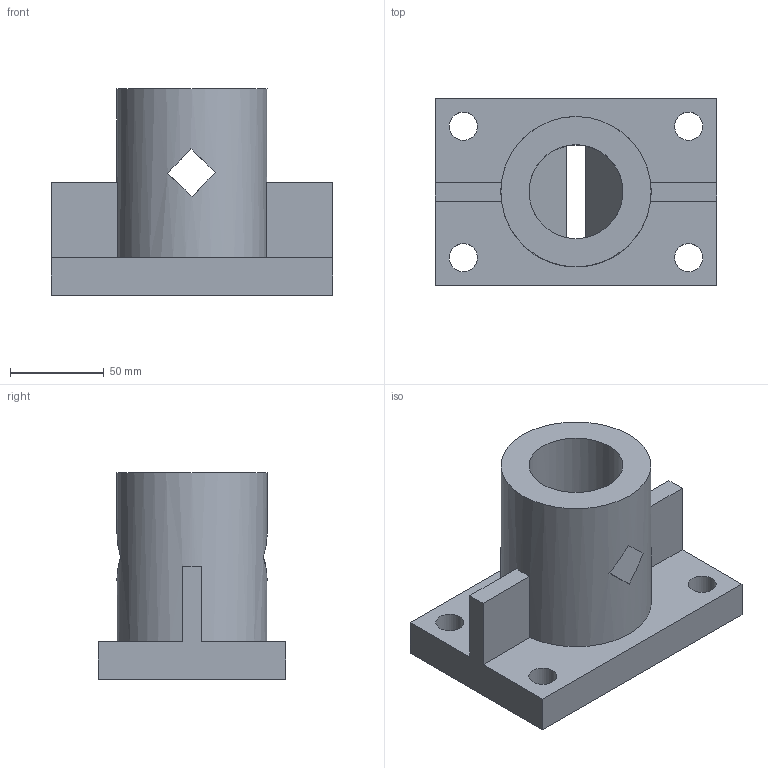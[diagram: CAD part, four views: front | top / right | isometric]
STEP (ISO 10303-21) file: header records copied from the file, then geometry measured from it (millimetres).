
FILE_DESCRIPTION(('TFLEX Exchange Step'),'2;1');
FILE_NAME('X2\041A043E0440043F04430441\X0\ вар 9.stp', '2025-06-24T11:15:05+03:00',('alymo'),('Unknown organisation'),'TFLEX Exchange 2023.0','T-FLEX CAD','Unknown authorisation');
FILE_SCHEMA( ('AUTOMOTIVE_DESIGN { 1 0 10303 214 1 1 1 1 }') );
Length unit declared in the file: millimetre
Products named in the file (1): Nodes
Bounding box: 150 x 100 x 110 mm (x, y, z)
Volume: 558695.4 mm3; surface area: 86354.7 mm2
Topology: 1 solids, 1 shells, 30 faces, 93 edges, 65 vertices
Faces by surface type: plane 24, cylinder 6
Full cylindrical faces by diameter (mm): 15 x4, 50 x1, 80 x1
Entity records: 1126 total; most frequent: DIRECTION 200, CARTESIAN_POINT 189, ORIENTED_EDGE 186, EDGE_CURVE 93, AXIS2_PLACEMENT_3D 76, VERTEX_POINT 65, VECTOR 48, LINE 48
